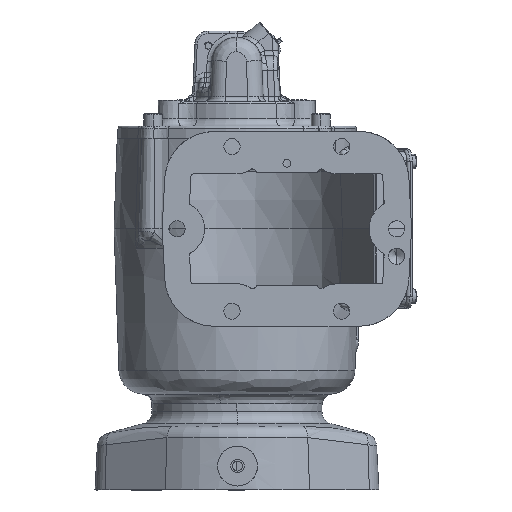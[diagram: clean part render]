
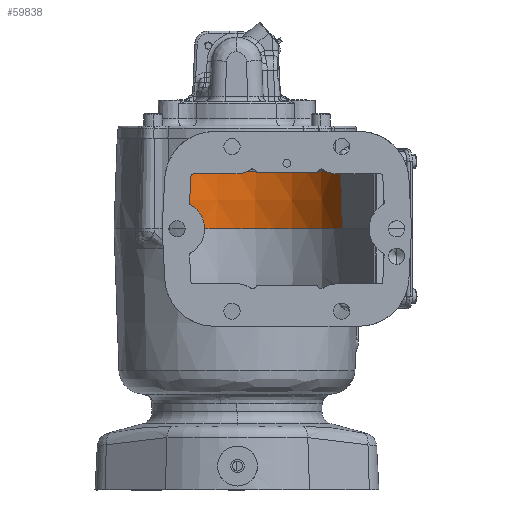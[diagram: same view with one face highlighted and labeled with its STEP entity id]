
A CAD part, front view. The second image highlights one B-rep face of the part: STEP entity #59838.
In plain terms, the highlighted conical face has half-angle 2 degrees and reference radius 71.882 mm.
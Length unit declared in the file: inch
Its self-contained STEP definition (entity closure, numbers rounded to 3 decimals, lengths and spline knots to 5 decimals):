
#7487 = ORIENTED_EDGE ( 'NONE', *, *, #186698, .F. ) ;
#8922 = DIRECTION ( 'NONE',  ( 0., 0., -1. ) ) ;
#17455 = CIRCLE ( 'NONE', #57840, 2.77964 ) ;
#24326 = ORIENTED_EDGE ( 'NONE', *, *, #162094, .T. ) ;
#29488 = CIRCLE ( 'NONE', #46387, 2.77964 ) ;
#33379 = ORIENTED_EDGE ( 'NONE', *, *, #90836, .T. ) ;
#35865 = CARTESIAN_POINT ( 'NONE',  ( 1.34502, 4.32573, 1.44209 ) ) ;
#38364 = DIRECTION ( 'NONE',  ( 0., -1., 0. ) ) ;
#43564 = VERTEX_POINT ( 'NONE', #35865 ) ;
#46387 = AXIS2_PLACEMENT_3D ( 'NONE', #87673, #186875, #139368 ) ;
#52381 = VECTOR ( 'NONE', #160010, 39.37008 ) ;
#57418 = DIRECTION ( 'NONE',  ( -1., 0., 0. ) ) ;
#57840 = AXIS2_PLACEMENT_3D ( 'NONE', #167949, #165838, #147943 ) ;
#59838 = ADVANCED_FACE ( 'NONE', ( #171450 ), #99167, .F. ) ;
#62511 = CARTESIAN_POINT ( 'NONE',  ( 1.39203, 4.34378, 0. ) ) ;
#76150 = CARTESIAN_POINT ( 'NONE',  ( -4.02964, 3.3296, 1.44209 ) ) ;
#78011 = ORIENTED_EDGE ( 'NONE', *, *, #146297, .T. ) ;
#84225 = DIRECTION ( 'NONE',  ( -0.035, 0., -0.999 ) ) ;
#86942 = CARTESIAN_POINT ( 'NONE',  ( -1.25, 3.3296, 0. ) ) ;
#87673 = CARTESIAN_POINT ( 'NONE',  ( -1.25, 3.3296, 1.44209 ) ) ;
#90836 = EDGE_CURVE ( 'NONE', #195130, #153736, #179263, .T. ) ;
#99167 = CONICAL_SURFACE ( 'NONE', #119388, 2.83, 0.035 ) ;
#105063 = EDGE_CURVE ( 'NONE', #43564, #105090, #29488, .T. ) ;
#105090 = VERTEX_POINT ( 'NONE', #121436 ) ;
#115385 = CIRCLE ( 'NONE', #122186, 2.83 ) ;
#119300 = VERTEX_POINT ( 'NONE', #62511 ) ;
#119388 = AXIS2_PLACEMENT_3D ( 'NONE', #185195, #8922, #57418 ) ;
#121436 = CARTESIAN_POINT ( 'NONE',  ( -1.25, 6.10924, 1.44209 ) ) ;
#122186 = AXIS2_PLACEMENT_3D ( 'NONE', #86942, #184063, #38364 ) ;
#126132 = EDGE_LOOP ( 'NONE', ( #136119, #78011, #33379, #7487, #24326 ) ) ;
#126789 = CARTESIAN_POINT ( 'NONE',  ( -4.08, 3.3296, 0. ) ) ;
#136119 = ORIENTED_EDGE ( 'NONE', *, *, #105063, .T. ) ;
#139368 = DIRECTION ( 'NONE',  ( 0., -1., 0. ) ) ;
#146297 = EDGE_CURVE ( 'NONE', #105090, #195130, #17455, .T. ) ;
#147943 = DIRECTION ( 'NONE',  ( 0., -1., 0. ) ) ;
#153736 = VERTEX_POINT ( 'NONE', #126789 ) ;
#160010 = DIRECTION ( 'NONE',  ( -0.033, -0.013, 0.999 ) ) ;
#162094 = EDGE_CURVE ( 'NONE', #119300, #43564, #176883, .T. ) ;
#164485 = CARTESIAN_POINT ( 'NONE',  ( -4.08, 3.3296, 0. ) ) ;
#165838 = DIRECTION ( 'NONE',  ( 0., 0., 1. ) ) ;
#167949 = CARTESIAN_POINT ( 'NONE',  ( -1.25, 3.3296, 1.44209 ) ) ;
#169990 = VECTOR ( 'NONE', #84225, 39.37008 ) ;
#171450 = FACE_OUTER_BOUND ( 'NONE', #126132, .T. ) ;
#175833 = CARTESIAN_POINT ( 'NONE',  ( 1.39203, 4.34378, 0. ) ) ;
#176883 = LINE ( 'NONE', #175833, #52381 ) ;
#179263 = LINE ( 'NONE', #164485, #169990 ) ;
#184063 = DIRECTION ( 'NONE',  ( 0., 0., 1. ) ) ;
#185195 = CARTESIAN_POINT ( 'NONE',  ( -1.25, 3.3296, 0. ) ) ;
#186698 = EDGE_CURVE ( 'NONE', #119300, #153736, #115385, .T. ) ;
#186875 = DIRECTION ( 'NONE',  ( 0., 0., 1. ) ) ;
#195130 = VERTEX_POINT ( 'NONE', #76150 ) ;
